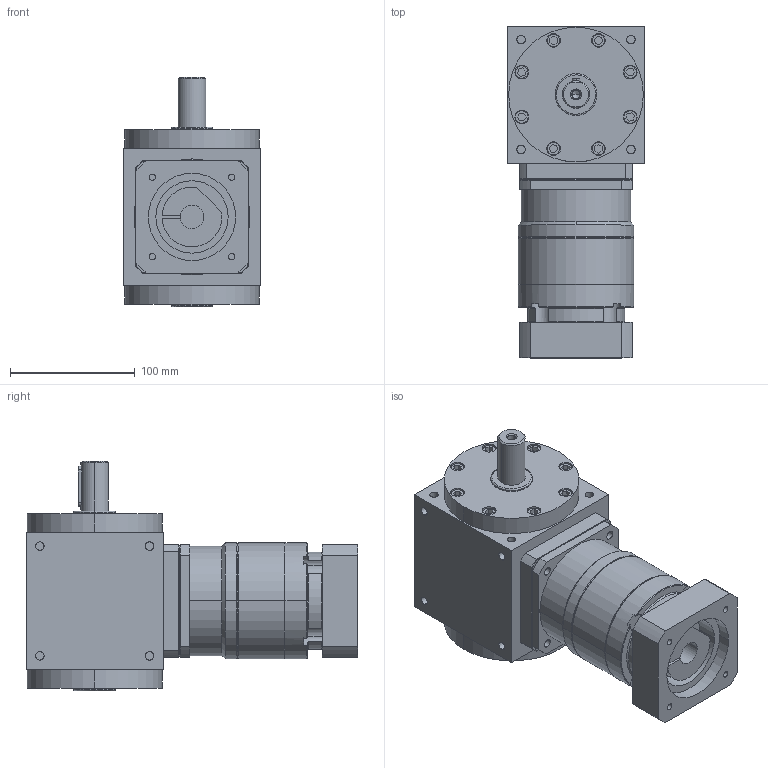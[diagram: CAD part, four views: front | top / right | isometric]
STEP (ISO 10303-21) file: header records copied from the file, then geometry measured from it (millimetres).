
FILE_DESCRIPTION (( 'STEP AP203' ), '1' );
FILE_NAME ('AT110-FR1-L2 19-70-90-M6.STEP', '2024-12-20T07:37:00', ( '' ), ( '' ), 'SwSTEP 2.0', 'SolidWorks 2021', '' );
FILE_SCHEMA (( 'CONFIG_CONTROL_DESIGN' ));
Length unit declared in the file: millimetre
Products named in the file (3): AT110-FR1; AT110-FR1-L2 19-70-90-M6; VRB-090-L2-S2-P1 19-70-90-M6
Assembly tree (2 placements, depth 2):
  AT110-FR1-L2 19-70-90-M6
    AT110-FR1
    VRB-090-L2-S2-P1 19-70-90-M6
Bounding box: 110 x 266 x 184 mm (x, y, z)
Volume: 2678822.7 mm3; surface area: 188134.4 mm2
Topology: 2 solids, 2 shells, 525 faces, 1270 edges, 813 vertices
Faces by surface type: cylinder 230, plane 230, cone 55, bspline 10
Entity records: 16118 total; most frequent: CARTESIAN_POINT 3559, DIRECTION 2597, ORIENTED_EDGE 2532, EDGE_CURVE 1266, AXIS2_PLACEMENT_3D 979, VERTEX_POINT 813, VECTOR 639, LINE 639
